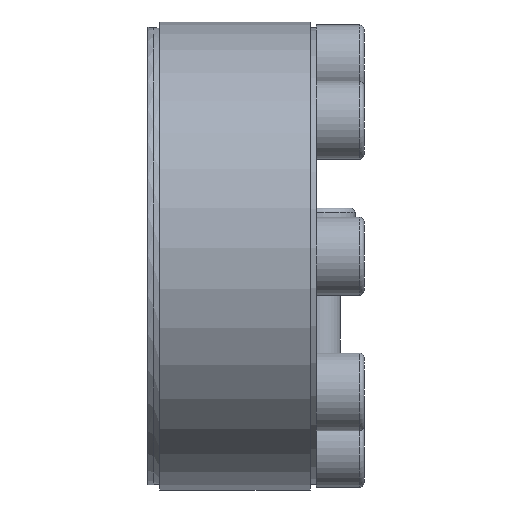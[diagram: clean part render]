
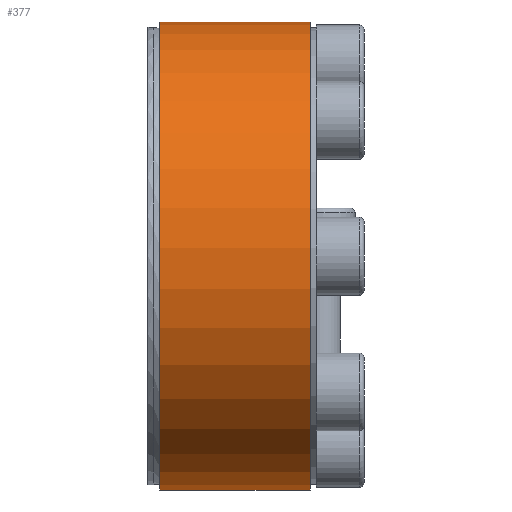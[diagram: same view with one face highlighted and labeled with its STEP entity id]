
A CAD part, left-side view. The second image highlights one B-rep face of the part: STEP entity #377.
In plain terms, the highlighted cylindrical face has radius 39 mm (diameter 78 mm), a partial arc.
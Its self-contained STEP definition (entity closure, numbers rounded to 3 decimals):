
#377 = ADVANCED_FACE( '', ( #586 ), #587, .T. );
#586 = FACE_OUTER_BOUND( '', #730, .T. );
#587 = CYLINDRICAL_SURFACE( '', #731, 39. );
#730 = EDGE_LOOP( '', ( #899, #900, #901, #902 ) );
#731 = AXIS2_PLACEMENT_3D( '', #903, #904, #905 );
#899 = ORIENTED_EDGE( '', *, *, #1247, .F. );
#900 = ORIENTED_EDGE( '', *, *, #1248, .T. );
#901 = ORIENTED_EDGE( '', *, *, #1249, .T. );
#902 = ORIENTED_EDGE( '', *, *, #1250, .F. );
#903 = CARTESIAN_POINT( '', ( 0., -60., 0. ) );
#904 = DIRECTION( '', ( 0., 1., 0. ) );
#905 = DIRECTION( '', ( 0., 0., -1. ) );
#1247 = EDGE_CURVE( '', #1383, #1384, #1385, .T. );
#1248 = EDGE_CURVE( '', #1383, #1386, #1387, .F. );
#1249 = EDGE_CURVE( '', #1386, #1388, #1389, .T. );
#1250 = EDGE_CURVE( '', #1384, #1388, #1390, .F. );
#1383 = VERTEX_POINT( '', #1493 );
#1384 = VERTEX_POINT( '', #1494 );
#1385 = CIRCLE( '', #1495, 39. );
#1386 = VERTEX_POINT( '', #1496 );
#1387 = LINE( '', #1497, #1498 );
#1388 = VERTEX_POINT( '', #1499 );
#1389 = CIRCLE( '', #1500, 39. );
#1390 = LINE( '', #1501, #1502 );
#1493 = CARTESIAN_POINT( '', ( 13.996, 1., 36.402 ) );
#1494 = CARTESIAN_POINT( '', ( 15.844, 1., 35.637 ) );
#1495 = AXIS2_PLACEMENT_3D( '', #1650, #1651, #1652 );
#1496 = CARTESIAN_POINT( '', ( 13.996, 26., 36.402 ) );
#1497 = CARTESIAN_POINT( '', ( 13.996, -60., 36.402 ) );
#1498 = VECTOR( '', #1653, 1000. );
#1499 = CARTESIAN_POINT( '', ( 15.844, 26., 35.637 ) );
#1500 = AXIS2_PLACEMENT_3D( '', #1654, #1655, #1656 );
#1501 = CARTESIAN_POINT( '', ( 15.844, -60., 35.637 ) );
#1502 = VECTOR( '', #1657, 1000. );
#1650 = CARTESIAN_POINT( '', ( 0., 1., 0. ) );
#1651 = DIRECTION( '', ( 0., -1., 0. ) );
#1652 = DIRECTION( '', ( 0., 0., -1. ) );
#1653 = DIRECTION( '', ( 0., -1., 0. ) );
#1654 = CARTESIAN_POINT( '', ( 0., 26., 0. ) );
#1655 = DIRECTION( '', ( 0., -1., 0. ) );
#1656 = DIRECTION( '', ( 0., 0., -1. ) );
#1657 = DIRECTION( '', ( 0., -1., 0. ) );
